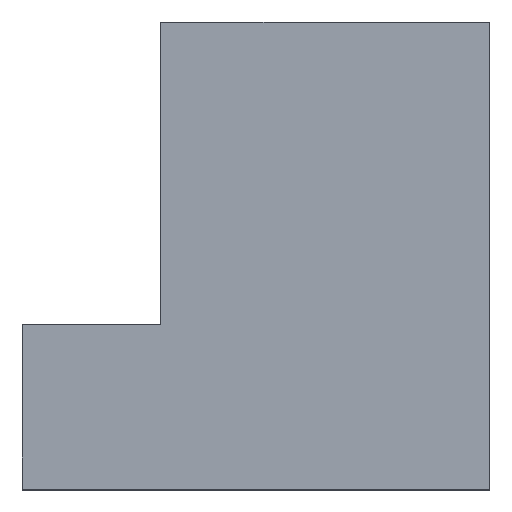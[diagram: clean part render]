
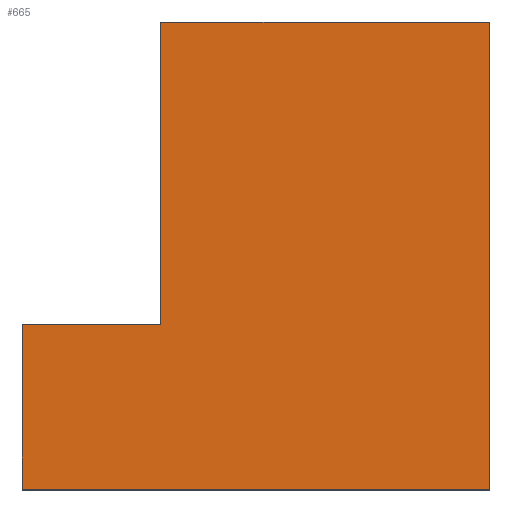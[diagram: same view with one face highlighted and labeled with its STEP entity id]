
A CAD part, top view. The second image highlights one B-rep face of the part: STEP entity #665.
In plain terms, the highlighted planar face has unit normal (0, 0, 1).
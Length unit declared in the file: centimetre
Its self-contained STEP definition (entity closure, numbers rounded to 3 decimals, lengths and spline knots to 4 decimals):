
#3 = EDGE_CURVE ( 'NONE', #44, #552, #506, .T. ) ;
#10 = EDGE_CURVE ( 'NONE', #552, #166, #186, .T. ) ;
#11 = FACE_OUTER_BOUND ( 'NONE', #130, .T. ) ;
#21 = DIRECTION ( 'NONE',  ( 1., 0., 0. ) ) ;
#30 = VERTEX_POINT ( 'NONE', #190 ) ;
#44 = VERTEX_POINT ( 'NONE', #582 ) ;
#68 = EDGE_CURVE ( 'NONE', #246, #177, #257, .T. ) ;
#101 = ORIENTED_EDGE ( 'NONE', *, *, #163, .F. ) ;
#104 = LINE ( 'NONE', #187, #771 ) ;
#118 = CARTESIAN_POINT ( 'NONE',  ( 0., 0., 1000. ) ) ;
#130 = EDGE_LOOP ( 'NONE', ( #101, #304, #539, #178, #583, #755 ) ) ;
#143 = VECTOR ( 'NONE', #420, 100. ) ;
#163 = EDGE_CURVE ( 'NONE', #30, #177, #104, .T. ) ;
#166 = VERTEX_POINT ( 'NONE', #352 ) ;
#177 = VERTEX_POINT ( 'NONE', #407 ) ;
#178 = ORIENTED_EDGE ( 'NONE', *, *, #10, .T. ) ;
#186 = LINE ( 'NONE', #118, #570 ) ;
#187 = CARTESIAN_POINT ( 'NONE',  ( 296.0756, 353.1017, 1000. ) ) ;
#190 = CARTESIAN_POINT ( 'NONE',  ( 296.0756, 353.1017, 1000. ) ) ;
#202 = CARTESIAN_POINT ( 'NONE',  ( 0., 353.1017, 1000. ) ) ;
#246 = VERTEX_POINT ( 'NONE', #247 ) ;
#247 = CARTESIAN_POINT ( 'NONE',  ( 1000., 1000., 1000. ) ) ;
#250 = CARTESIAN_POINT ( 'NONE',  ( 0., 1000., 1000. ) ) ;
#257 = LINE ( 'NONE', #456, #783 ) ;
#266 = LINE ( 'NONE', #202, #437 ) ;
#304 = ORIENTED_EDGE ( 'NONE', *, *, #342, .F. ) ;
#314 = DIRECTION ( 'NONE',  ( -1., 0., 0. ) ) ;
#342 = EDGE_CURVE ( 'NONE', #44, #30, #266, .T. ) ;
#352 = CARTESIAN_POINT ( 'NONE',  ( 1000., 0., 1000. ) ) ;
#407 = CARTESIAN_POINT ( 'NONE',  ( 296.0756, 1000., 1000. ) ) ;
#420 = DIRECTION ( 'NONE',  ( 0., 1., 0. ) ) ;
#437 = VECTOR ( 'NONE', #21, 100. ) ;
#456 = CARTESIAN_POINT ( 'NONE',  ( 0., 1000., 1000. ) ) ;
#506 = LINE ( 'NONE', #250, #525 ) ;
#525 = VECTOR ( 'NONE', #690, 100. ) ;
#539 = ORIENTED_EDGE ( 'NONE', *, *, #3, .T. ) ;
#552 = VERTEX_POINT ( 'NONE', #752 ) ;
#570 = VECTOR ( 'NONE', #625, 100. ) ;
#582 = CARTESIAN_POINT ( 'NONE',  ( 0., 353.1017, 1000. ) ) ;
#583 = ORIENTED_EDGE ( 'NONE', *, *, #598, .T. ) ;
#584 = PLANE ( 'NONE',  #636 ) ;
#598 = EDGE_CURVE ( 'NONE', #166, #246, #736, .T. ) ;
#605 = DIRECTION ( 'NONE',  ( 0., 1., 0. ) ) ;
#625 = DIRECTION ( 'NONE',  ( 1., 0., 0. ) ) ;
#636 = AXIS2_PLACEMENT_3D ( 'NONE', #835, #716, #713 ) ;
#665 = ADVANCED_FACE ( 'NONE', ( #11 ), #584, .T. ) ;
#690 = DIRECTION ( 'NONE',  ( 0., -1., 0. ) ) ;
#713 = DIRECTION ( 'NONE',  ( 1., 0., 0. ) ) ;
#716 = DIRECTION ( 'NONE',  ( 0., 0., 1. ) ) ;
#736 = LINE ( 'NONE', #740, #143 ) ;
#740 = CARTESIAN_POINT ( 'NONE',  ( 1000., 1000., 1000. ) ) ;
#752 = CARTESIAN_POINT ( 'NONE',  ( 0., 0., 1000. ) ) ;
#755 = ORIENTED_EDGE ( 'NONE', *, *, #68, .T. ) ;
#771 = VECTOR ( 'NONE', #605, 100. ) ;
#783 = VECTOR ( 'NONE', #314, 100. ) ;
#835 = CARTESIAN_POINT ( 'NONE',  ( 0., 0., 1000. ) ) ;
